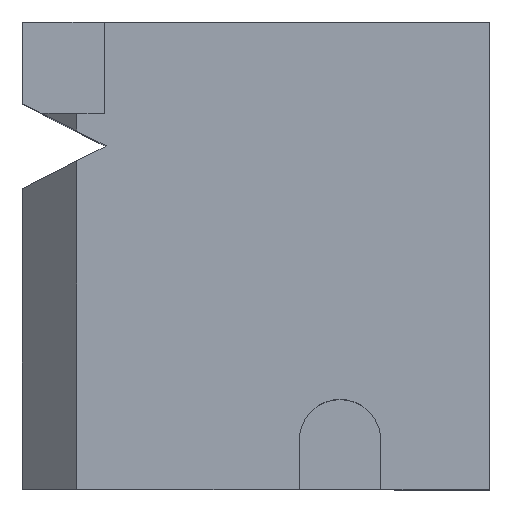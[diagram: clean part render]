
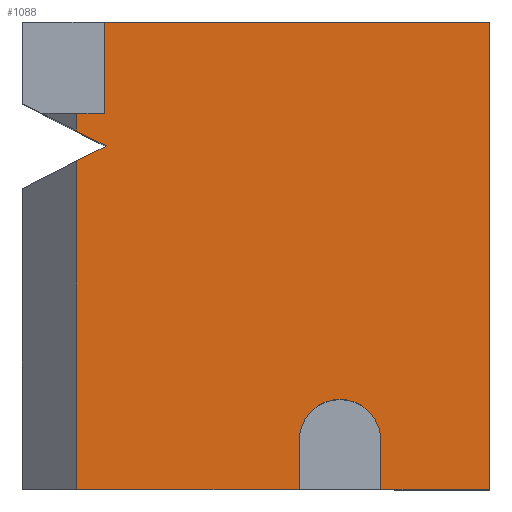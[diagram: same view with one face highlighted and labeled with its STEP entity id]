
A CAD part, top view. The second image highlights one B-rep face of the part: STEP entity #1088.
In plain terms, the highlighted planar face has unit normal (0, 0, 1).
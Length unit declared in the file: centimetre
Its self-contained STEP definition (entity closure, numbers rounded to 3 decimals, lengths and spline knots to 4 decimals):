
#22 = ORIENTED_EDGE ( 'NONE', *, *, #1270, .T. ) ;
#65 = ORIENTED_EDGE ( 'NONE', *, *, #76, .F. ) ;
#68 = CARTESIAN_POINT ( 'NONE',  ( 175.4724, 1000., 1000. ) ) ;
#76 = EDGE_CURVE ( 'NONE', #684, #1018, #605, .T. ) ;
#109 = ORIENTED_EDGE ( 'NONE', *, *, #1142, .T. ) ;
#110 = CARTESIAN_POINT ( 'NONE',  ( 175.4724, 804.5658, 1000. ) ) ;
#117 = LINE ( 'NONE', #649, #1571 ) ;
#158 = EDGE_CURVE ( 'NONE', #1018, #1045, #231, .T. ) ;
#167 = CARTESIAN_POINT ( 'NONE',  ( 1000., 1000., 1000. ) ) ;
#186 = CARTESIAN_POINT ( 'NONE',  ( 0., 1000., 1000. ) ) ;
#231 = LINE ( 'NONE', #1109, #320 ) ;
#245 = ORIENTED_EDGE ( 'NONE', *, *, #792, .F. ) ;
#246 = CARTESIAN_POINT ( 'NONE',  ( 767.2445, 104.6071, 1000. ) ) ;
#265 = CARTESIAN_POINT ( 'NONE',  ( 767.2445, 104.6071, 1000. ) ) ;
#296 = EDGE_CURVE ( 'NONE', #1430, #1490, #1471, .T. ) ;
#299 = DIRECTION ( 'NONE',  ( 1., 0., 0. ) ) ;
#310 = DIRECTION ( 'NONE',  ( 0., 1., 0. ) ) ;
#320 = VECTOR ( 'NONE', #1658, 100. ) ;
#326 = VERTEX_POINT ( 'NONE', #938 ) ;
#363 = PLANE ( 'NONE',  #1160 ) ;
#374 = VECTOR ( 'NONE', #762, 100. ) ;
#379 = VECTOR ( 'NONE', #719, 100. ) ;
#398 = DIRECTION ( 'NONE',  ( 0., -1., 0. ) ) ;
#407 = CARTESIAN_POINT ( 'NONE',  ( 116.3189, 0., 1000. ) ) ;
#410 = LINE ( 'NONE', #246, #1223 ) ;
#432 = CIRCLE ( 'NONE', #1030, 87.4338 ) ;
#443 = CARTESIAN_POINT ( 'NONE',  ( 592.377, 0., 1000. ) ) ;
#469 = CARTESIAN_POINT ( 'NONE',  ( 116.3189, 766.5411, 1000. ) ) ;
#472 = VERTEX_POINT ( 'NONE', #265 ) ;
#483 = FACE_OUTER_BOUND ( 'NONE', #704, .T. ) ;
#489 = VERTEX_POINT ( 'NONE', #793 ) ;
#523 = CARTESIAN_POINT ( 'NONE',  ( 767.2445, 0., 1000. ) ) ;
#539 = VECTOR ( 'NONE', #813, 100. ) ;
#556 = CARTESIAN_POINT ( 'NONE',  ( 0., 0., 1000. ) ) ;
#566 = VERTEX_POINT ( 'NONE', #827 ) ;
#572 = DIRECTION ( 'NONE',  ( 0., 0., 1. ) ) ;
#605 = LINE ( 'NONE', #1149, #1515 ) ;
#624 = LINE ( 'NONE', #186, #379 ) ;
#627 = VECTOR ( 'NONE', #824, 100. ) ;
#629 = CARTESIAN_POINT ( 'NONE',  ( 592.377, 0., 1000. ) ) ;
#630 = VERTEX_POINT ( 'NONE', #68 ) ;
#649 = CARTESIAN_POINT ( 'NONE',  ( 116.3189, 0., 1000. ) ) ;
#670 = CARTESIAN_POINT ( 'NONE',  ( 592.377, 104.6071, 1000. ) ) ;
#675 = LINE ( 'NONE', #1454, #1035 ) ;
#684 = VERTEX_POINT ( 'NONE', #895 ) ;
#696 = LINE ( 'NONE', #443, #539 ) ;
#704 = EDGE_LOOP ( 'NONE', ( #1497, #1114, #1145, #1124, #714, #109, #245, #1689, #22, #1314, #65, #904, #1618 ) ) ;
#714 = ORIENTED_EDGE ( 'NONE', *, *, #1395, .T. ) ;
#719 = DIRECTION ( 'NONE',  ( -1., 0., 0. ) ) ;
#723 = VERTEX_POINT ( 'NONE', #1277 ) ;
#727 = CARTESIAN_POINT ( 'NONE',  ( 179.0901, 734.6241, 1000. ) ) ;
#736 = DIRECTION ( 'NONE',  ( 0., 0., 1. ) ) ;
#762 = DIRECTION ( 'NONE',  ( 0., -1., 0. ) ) ;
#767 = DIRECTION ( 'NONE',  ( -1., 0., 0. ) ) ;
#783 = EDGE_CURVE ( 'NONE', #1646, #472, #410, .T. ) ;
#792 = EDGE_CURVE ( 'NONE', #489, #630, #1550, .T. ) ;
#793 = CARTESIAN_POINT ( 'NONE',  ( 175.4724, 804.5658, 1000. ) ) ;
#813 = DIRECTION ( 'NONE',  ( 0., -1., 0. ) ) ;
#824 = DIRECTION ( 'NONE',  ( 1., 0., 0. ) ) ;
#827 = CARTESIAN_POINT ( 'NONE',  ( 1000., 1000., 1000. ) ) ;
#856 = CARTESIAN_POINT ( 'NONE',  ( 0., 0., 1000. ) ) ;
#895 = CARTESIAN_POINT ( 'NONE',  ( 116.3189, 702.7072, 1000. ) ) ;
#904 = ORIENTED_EDGE ( 'NONE', *, *, #1648, .T. ) ;
#927 = VECTOR ( 'NONE', #1040, 100. ) ;
#933 = EDGE_CURVE ( 'NONE', #1342, #1490, #696, .T. ) ;
#938 = CARTESIAN_POINT ( 'NONE',  ( 1000., 0., 1000. ) ) ;
#985 = EDGE_CURVE ( 'NONE', #723, #489, #675, .T. ) ;
#997 = DIRECTION ( 'NONE',  ( 1., 0., 0. ) ) ;
#1004 = VECTOR ( 'NONE', #1047, 100. ) ;
#1018 = VERTEX_POINT ( 'NONE', #727 ) ;
#1030 = AXIS2_PLACEMENT_3D ( 'NONE', #1131, #572, #767 ) ;
#1035 = VECTOR ( 'NONE', #299, 100. ) ;
#1040 = DIRECTION ( 'NONE',  ( 0., 1., 0. ) ) ;
#1045 = VERTEX_POINT ( 'NONE', #469 ) ;
#1047 = DIRECTION ( 'NONE',  ( 1., 0., 0. ) ) ;
#1088 = ADVANCED_FACE ( 'NONE', ( #483 ), #363, .T. ) ;
#1109 = CARTESIAN_POINT ( 'NONE',  ( 179.0901, 734.6241, 1000. ) ) ;
#1114 = ORIENTED_EDGE ( 'NONE', *, *, #1546, .F. ) ;
#1124 = ORIENTED_EDGE ( 'NONE', *, *, #1608, .T. ) ;
#1131 = CARTESIAN_POINT ( 'NONE',  ( 679.8108, 104.6071, 1000. ) ) ;
#1142 = EDGE_CURVE ( 'NONE', #566, #630, #624, .T. ) ;
#1145 = ORIENTED_EDGE ( 'NONE', *, *, #783, .F. ) ;
#1149 = CARTESIAN_POINT ( 'NONE',  ( 0., 643.5632, 1000. ) ) ;
#1157 = LINE ( 'NONE', #1557, #1004 ) ;
#1160 = AXIS2_PLACEMENT_3D ( 'NONE', #856, #736, #997 ) ;
#1180 = DIRECTION ( 'NONE',  ( 0., 1., 0. ) ) ;
#1213 = LINE ( 'NONE', #167, #1332 ) ;
#1223 = VECTOR ( 'NONE', #1180, 100. ) ;
#1270 = EDGE_CURVE ( 'NONE', #723, #1045, #1573, .T. ) ;
#1277 = CARTESIAN_POINT ( 'NONE',  ( 116.3189, 804.5658, 1000. ) ) ;
#1314 = ORIENTED_EDGE ( 'NONE', *, *, #158, .F. ) ;
#1332 = VECTOR ( 'NONE', #310, 100. ) ;
#1342 = VERTEX_POINT ( 'NONE', #670 ) ;
#1379 = DIRECTION ( 'NONE',  ( 0.891, 0.453, 0. ) ) ;
#1392 = CARTESIAN_POINT ( 'NONE',  ( 116.3189, 0., 1000. ) ) ;
#1395 = EDGE_CURVE ( 'NONE', #326, #566, #1213, .T. ) ;
#1430 = VERTEX_POINT ( 'NONE', #1392 ) ;
#1454 = CARTESIAN_POINT ( 'NONE',  ( 0., 804.5658, 1000. ) ) ;
#1471 = LINE ( 'NONE', #556, #627 ) ;
#1490 = VERTEX_POINT ( 'NONE', #629 ) ;
#1497 = ORIENTED_EDGE ( 'NONE', *, *, #933, .F. ) ;
#1515 = VECTOR ( 'NONE', #1379, 100. ) ;
#1546 = EDGE_CURVE ( 'NONE', #472, #1342, #432, .T. ) ;
#1550 = LINE ( 'NONE', #110, #927 ) ;
#1557 = CARTESIAN_POINT ( 'NONE',  ( 0., 0., 1000. ) ) ;
#1571 = VECTOR ( 'NONE', #398, 100. ) ;
#1573 = LINE ( 'NONE', #407, #374 ) ;
#1608 = EDGE_CURVE ( 'NONE', #1646, #326, #1157, .T. ) ;
#1618 = ORIENTED_EDGE ( 'NONE', *, *, #296, .T. ) ;
#1646 = VERTEX_POINT ( 'NONE', #523 ) ;
#1648 = EDGE_CURVE ( 'NONE', #684, #1430, #117, .T. ) ;
#1658 = DIRECTION ( 'NONE',  ( -0.891, 0.453, 0. ) ) ;
#1689 = ORIENTED_EDGE ( 'NONE', *, *, #985, .F. ) ;
